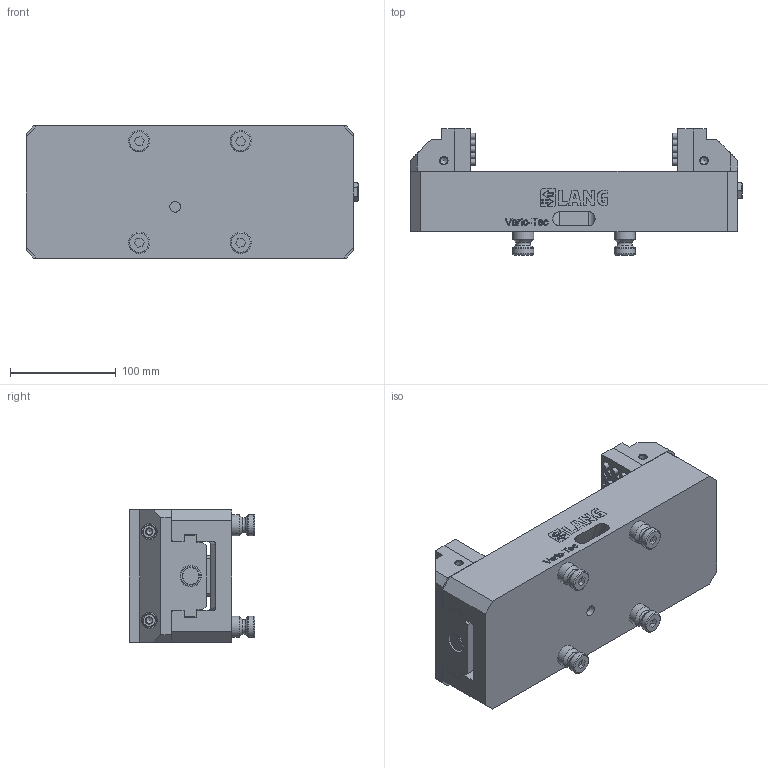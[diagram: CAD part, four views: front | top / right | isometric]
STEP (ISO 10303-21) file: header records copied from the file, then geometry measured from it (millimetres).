
FILE_DESCRIPTION (( 'STEP AP214' ), '1' );
FILE_NAME ('42202-125.STEP', '2020-03-16T08:11:39', ( '' ), ( '' ), 'SwSTEP 2.0', 'SolidWorks 2019', '' );
FILE_SCHEMA (( 'AUTOMOTIVE_DESIGN' ));
Length unit declared in the file: millimetre
Products named in the file (3): Vario-Tec_42202-125; 42202-125; 42018-125
Assembly tree (3 placements, depth 2):
  42202-125
    Vario-Tec_42202-125
    42018-125  x2
Bounding box: 314.06 x 119.01 x 125.24 mm (x, y, z)
Volume: 2076620.9 mm3; surface area: 318153.7 mm2
Topology: 50 solids, 50 shells, 1106 faces, 2554 edges, 1665 vertices
Faces by surface type: plane 709, cylinder 162, bspline 140, cone 71, torus 24
Full cylindrical faces by diameter (mm): 6 x92, 6.8 x8, 8 x4, 8.5 x4, 9 x4, 10 x1, 13 x4, 15 x4, 16 x8, 16.5 x1, 20 x12
Entity records: 39761 total; most frequent: CARTESIAN_POINT 10455, ORIENTED_EDGE 3896, DIRECTION 3377, EDGE_CURVE 1948, VECTOR 1387, LINE 1387, VERTEX_POINT 1355, EDGE_LOOP 1113
